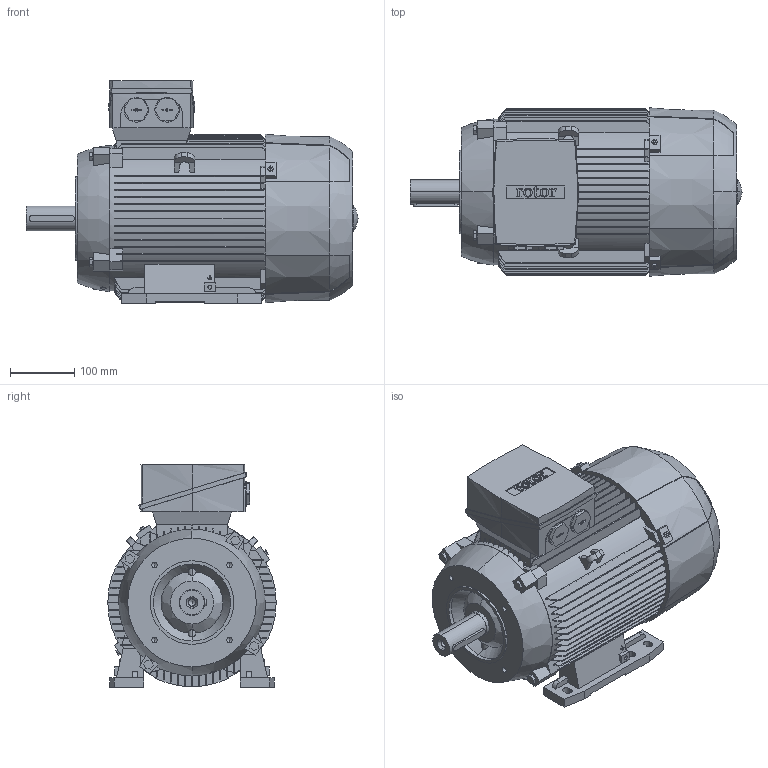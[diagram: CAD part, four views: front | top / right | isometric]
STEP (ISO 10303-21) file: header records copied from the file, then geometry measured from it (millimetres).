
FILE_DESCRIPTION (( 'STEP AP203' ), '1' );
FILE_NAME ('6RN132M04E26 IM2641-A.STEP', '2017-01-03T14:40:03', ( 'rotor' ), ( 'Hewlett-Packard Company' ), 'SwSTEP 2.0', 'SolidWorks 2015', '' );
FILE_SCHEMA (( 'CONFIG_CONTROL_DESIGN' ));
Length unit declared in the file: millimetre
Products named in the file (1): 6RN132M04E26 IM2641-A
Bounding box: 516.5 x 262 x 346.5 mm (x, y, z)
Volume: 21393896.8 mm3; surface area: 938942.7 mm2
Topology: 7 solids, 7 shells, 963 faces, 2681 edges, 1764 vertices
Faces by surface type: plane 586, cylinder 177, bspline 168, cone 32
Entity records: 36067 total; most frequent: CARTESIAN_POINT 12814, ORIENTED_EDGE 5338, DIRECTION 4075, EDGE_CURVE 2669, VERTEX_POINT 1764, LINE 1607, VECTOR 1607, AXIS2_PLACEMENT_3D 1234
